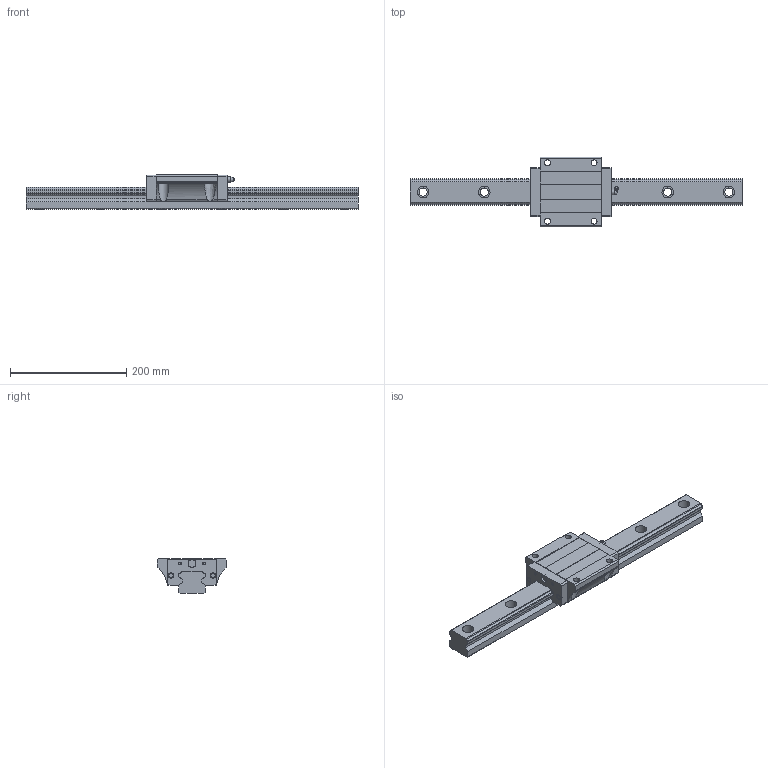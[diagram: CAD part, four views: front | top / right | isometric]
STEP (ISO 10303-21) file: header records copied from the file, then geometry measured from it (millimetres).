
FILE_DESCRIPTION((''),'2;1');
FILE_NAME('D:\製品 (図面)\カタログ用3D\リニアガイド関連\STEP形式\LGH-F\LGH45F.stp','2010-06-02T15:51:29',('Tsuchiya'),(''),'Autodesk Inventor 10','Autodesk Inventor 10','');
FILE_SCHEMA(('AUTOMOTIVE_DESIGN { 1 0 10303 214 1 1 1 1 }'));
Length unit declared in the file: millimetre
Products named in the file (3): LGH45F; LGH45F1; LGH45F2
Assembly tree (2 placements, depth 2):
  LGH45F
    LGH45F1
    LGH45F2
Bounding box: 570 x 120 x 60 mm (x, y, z)
Volume: 1313836 mm3; surface area: 170063.1 mm2
Topology: 2 solids, 2 shells, 189 faces, 483 edges, 320 vertices
Faces by surface type: plane 91, cylinder 48, bspline 45, sphere 3, cone 2
Full cylindrical faces by diameter (mm): 4.3 x2, 5 x2, 7.6 x2, 9.5 x2, 9.7 x1, 10.106 x2, 13.5 x1
Entity records: 6344 total; most frequent: CARTESIAN_POINT 1886, DIRECTION 874, ORIENTED_EDGE 868, EDGE_CURVE 434, VERTEX_POINT 315, AXIS2_PLACEMENT_3D 309, EDGE_LOOP 275, VECTOR 256
